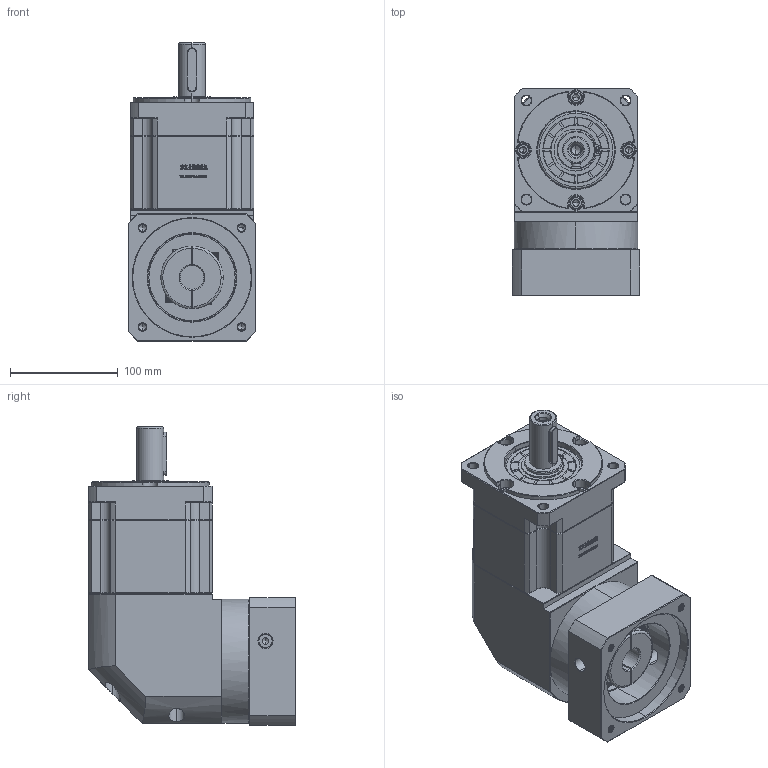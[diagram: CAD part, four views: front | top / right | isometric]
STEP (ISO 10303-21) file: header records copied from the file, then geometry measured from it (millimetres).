
FILE_DESCRIPTION (( 'STEP AP214' ), '1' );
FILE_NAME ('ZBR115A-D25-L2-22-110-130-M8.step', '2023-03-03T04:56:43', ( '' ), ( 'Microsoft' ), 'SwSTEP 2.0', 'SolidWorks 2016', '' );
FILE_SCHEMA (( 'AUTOMOTIVE_DESIGN' ));
Length unit declared in the file: millimetre
Products named in the file (1): ZBR115A-D25-L2-22-110-130-M8
Bounding box: 118 x 192.4 x 276.5 mm (x, y, z)
Volume: 3264563.2 mm3; surface area: 259217.9 mm2
Topology: 6 solids, 6 shells, 2982 faces, 7903 edges, 5067 vertices
Faces by surface type: plane 1559, bspline 607, cylinder 439, cone 369, torus 8
Entity records: 161671 total; most frequent: CARTESIAN_POINT 59783, ORIENTED_EDGE 15746, DIRECTION 11916, EDGE_CURVE 7873, VECTOR 5306, LINE 5306, VERTEX_POINT 5067, AXIS2_PLACEMENT_3D 3305
